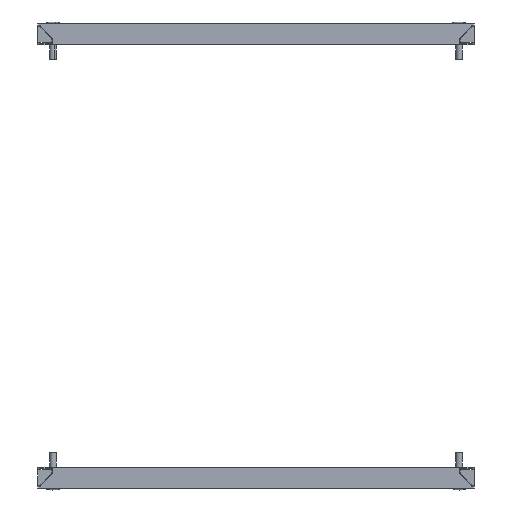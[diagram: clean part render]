
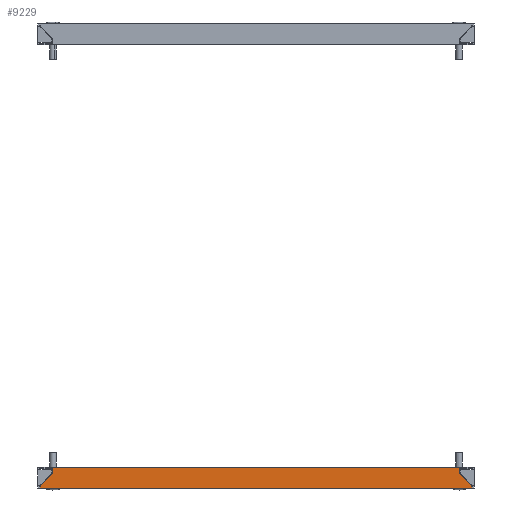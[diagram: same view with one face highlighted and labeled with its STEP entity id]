
A CAD part, front view. The second image highlights one B-rep face of the part: STEP entity #9229.
In plain terms, the highlighted planar face has unit normal (0, -1, 0).
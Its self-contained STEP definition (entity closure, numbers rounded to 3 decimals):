
#233 = DIRECTION ( 'NONE',  ( 0., 0., 1. ) ) ;
#236 = CARTESIAN_POINT ( 'NONE',  ( 0., -50., 0. ) ) ;
#398 = CARTESIAN_POINT ( 'NONE',  ( 0., -50., 17.5 ) ) ;
#600 = VECTOR ( 'NONE', #1173, 1000. ) ;
#713 = EDGE_CURVE ( 'NONE', #3817, #5169, #3804, .T. ) ;
#1173 = DIRECTION ( 'NONE',  ( 1., 0., 0. ) ) ;
#1209 = EDGE_CURVE ( 'NONE', #6151, #4682, #2451, .T. ) ;
#1241 = DIRECTION ( 'NONE',  ( -1., 0., 0. ) ) ;
#1486 = CARTESIAN_POINT ( 'NONE',  ( -197.723, -50., -1.5 ) ) ;
#1728 = PLANE ( 'NONE',  #7427 ) ;
#1909 = VERTEX_POINT ( 'NONE', #8840 ) ;
#2182 = CARTESIAN_POINT ( 'NONE',  ( -197.621, -50., -0.099 ) ) ;
#2383 = EDGE_CURVE ( 'NONE', #5074, #9057, #8072, .T. ) ;
#2451 = LINE ( 'NONE', #6988, #2674 ) ;
#2465 = ORIENTED_EDGE ( 'NONE', *, *, #8235, .T. ) ;
#2535 = DIRECTION ( 'NONE',  ( 0., 0., 1. ) ) ;
#2648 = CARTESIAN_POINT ( 'NONE',  ( -186.5, -50., 17.5 ) ) ;
#2674 = VECTOR ( 'NONE', #4424, 1000. ) ;
#2699 = CARTESIAN_POINT ( 'NONE',  ( 197.681, -50., -0.799 ) ) ;
#2831 = ORIENTED_EDGE ( 'NONE', *, *, #713, .F. ) ;
#2854 = CARTESIAN_POINT ( 'NONE',  ( -197.546, -50., 0.6 ) ) ;
#3144 = DIRECTION ( 'NONE',  ( 0., 1., 0. ) ) ;
#3314 = DIRECTION ( 'NONE',  ( 0., 0., -1. ) ) ;
#3523 = VECTOR ( 'NONE', #233, 1000. ) ;
#3710 = CARTESIAN_POINT ( 'NONE',  ( 197.546, -50., 0.6 ) ) ;
#3727 = EDGE_CURVE ( 'NONE', #1909, #8879, #8141, .T. ) ;
#3741 = EDGE_CURVE ( 'NONE', #4682, #9057, #4601, .T. ) ;
#3804 = LINE ( 'NONE', #2854, #8308 ) ;
#3817 = VERTEX_POINT ( 'NONE', #8291 ) ;
#3925 = EDGE_CURVE ( 'NONE', #6151, #1909, #5606, .T. ) ;
#4173 = LINE ( 'NONE', #4812, #6775 ) ;
#4424 = DIRECTION ( 'NONE',  ( 0.707, 0., -0.707 ) ) ;
#4443 = CARTESIAN_POINT ( 'NONE',  ( -197.546, -50., 0.6 ) ) ;
#4493 = CARTESIAN_POINT ( 'NONE',  ( -197.704, -50., -1.149 ) ) ;
#4497 = CARTESIAN_POINT ( 'NONE',  ( 197.723, -50., -1.5 ) ) ;
#4516 = EDGE_LOOP ( 'NONE', ( #7767, #5403, #7015, #2465, #2831, #7140, #7958, #6756 ) ) ;
#4601 = B_SPLINE_CURVE_WITH_KNOTS ( 'NONE', 3,
 ( #7392, #9616, #5672, #2699, #9718, #8845 ),
 .UNSPECIFIED., .F., .F.,
 ( 4, 2, 4 ),
 ( 0.005, 0.006, 0.008 ),
 .UNSPECIFIED. ) ;
#4682 = VERTEX_POINT ( 'NONE', #3710 ) ;
#4812 = CARTESIAN_POINT ( 'NONE',  ( -186.5, -50., 11.646 ) ) ;
#5007 = CARTESIAN_POINT ( 'NONE',  ( 186.5, -50., 11.646 ) ) ;
#5074 = VERTEX_POINT ( 'NONE', #5921 ) ;
#5169 = VERTEX_POINT ( 'NONE', #8930 ) ;
#5403 = ORIENTED_EDGE ( 'NONE', *, *, #3925, .T. ) ;
#5606 = LINE ( 'NONE', #7725, #3523 ) ;
#5672 = CARTESIAN_POINT ( 'NONE',  ( 197.621, -50., -0.099 ) ) ;
#5921 = CARTESIAN_POINT ( 'NONE',  ( -197.723, -50., -1.5 ) ) ;
#5979 = DIRECTION ( 'NONE',  ( 0.707, 0., 0.707 ) ) ;
#6015 = CARTESIAN_POINT ( 'NONE',  ( -197.584, -50., 0.251 ) ) ;
#6151 = VERTEX_POINT ( 'NONE', #5007 ) ;
#6330 = EDGE_CURVE ( 'NONE', #3817, #5074, #6615, .T. ) ;
#6615 = B_SPLINE_CURVE_WITH_KNOTS ( 'NONE', 3,
 ( #4443, #6015, #2182, #8332, #4493, #1486 ),
 .UNSPECIFIED., .F., .F.,
 ( 4, 2, 4 ),
 ( 0.005, 0.006, 0.008 ),
 .UNSPECIFIED. ) ;
#6756 = ORIENTED_EDGE ( 'NONE', *, *, #3741, .F. ) ;
#6775 = VECTOR ( 'NONE', #3314, 1000. ) ;
#6988 = CARTESIAN_POINT ( 'NONE',  ( -82.084, -50., 280.23 ) ) ;
#7015 = ORIENTED_EDGE ( 'NONE', *, *, #3727, .T. ) ;
#7140 = ORIENTED_EDGE ( 'NONE', *, *, #6330, .T. ) ;
#7360 = CARTESIAN_POINT ( 'NONE',  ( 0., -50., -1.5 ) ) ;
#7392 = CARTESIAN_POINT ( 'NONE',  ( 197.546, -50., 0.6 ) ) ;
#7427 = AXIS2_PLACEMENT_3D ( 'NONE', #236, #3144, #2535 ) ;
#7725 = CARTESIAN_POINT ( 'NONE',  ( 186.5, -50., 11.646 ) ) ;
#7767 = ORIENTED_EDGE ( 'NONE', *, *, #1209, .F. ) ;
#7958 = ORIENTED_EDGE ( 'NONE', *, *, #2383, .T. ) ;
#8072 = LINE ( 'NONE', #7360, #600 ) ;
#8141 = LINE ( 'NONE', #398, #8345 ) ;
#8235 = EDGE_CURVE ( 'NONE', #8879, #5169, #4173, .T. ) ;
#8291 = CARTESIAN_POINT ( 'NONE',  ( -197.546, -50., 0.6 ) ) ;
#8308 = VECTOR ( 'NONE', #5979, 1000. ) ;
#8332 = CARTESIAN_POINT ( 'NONE',  ( -197.681, -50., -0.799 ) ) ;
#8345 = VECTOR ( 'NONE', #1241, 1000. ) ;
#8840 = CARTESIAN_POINT ( 'NONE',  ( 186.5, -50., 17.5 ) ) ;
#8845 = CARTESIAN_POINT ( 'NONE',  ( 197.723, -50., -1.5 ) ) ;
#8879 = VERTEX_POINT ( 'NONE', #2648 ) ;
#8930 = CARTESIAN_POINT ( 'NONE',  ( -186.5, -50., 11.646 ) ) ;
#9057 = VERTEX_POINT ( 'NONE', #4497 ) ;
#9229 = ADVANCED_FACE ( 'NONE', ( #9448 ), #1728, .F. ) ;
#9448 = FACE_OUTER_BOUND ( 'NONE', #4516, .T. ) ;
#9616 = CARTESIAN_POINT ( 'NONE',  ( 197.584, -50., 0.251 ) ) ;
#9718 = CARTESIAN_POINT ( 'NONE',  ( 197.704, -50., -1.149 ) ) ;
